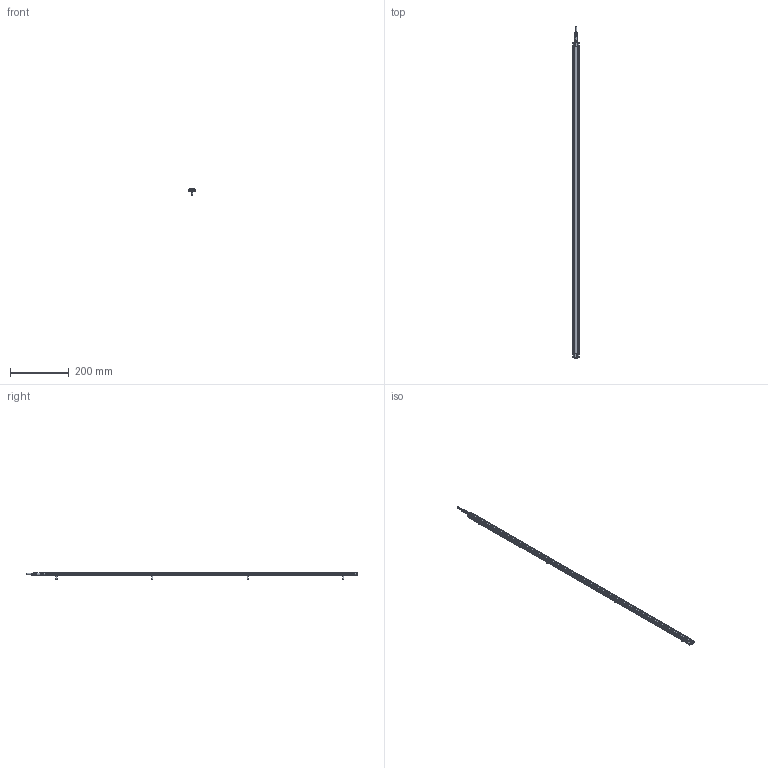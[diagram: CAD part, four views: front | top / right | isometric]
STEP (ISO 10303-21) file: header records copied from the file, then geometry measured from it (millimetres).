
FILE_DESCRIPTION (( 'STEP AP214' ), '1' );
FILE_NAME ('ILGA-B-K2-1080mm.STEP', '2026-04-24T22:55:43', ( '' ), ( '' ), 'SwSTEP 2.0', 'SolidWorks 2025', '' );
FILE_SCHEMA (( 'AUTOMOTIVE_DESIGN' ));
Length unit declared in the file: millimetre
Products named in the file (1): ILGA-B-K2-1080mm
Bounding box: 22.4 x 1134.5 x 25.7 mm (x, y, z)
Surface area: 149745.4 mm2 (no closed solid volume)
Topology: 0 solids, 17 shells, 975 faces, 2532 edges, 1571 vertices
Faces by surface type: cylinder 403, plane 364, cone 86, bspline 56, torus 50, sphere 16
Entity records: 42888 total; most frequent: CARTESIAN_POINT 8692, ORIENTED_EDGE 4945, DIRECTION 4896, EDGE_CURVE 2480, AXIS2_PLACEMENT_3D 1879, VERTEX_POINT 1571, VECTOR 1138, LINE 1138
